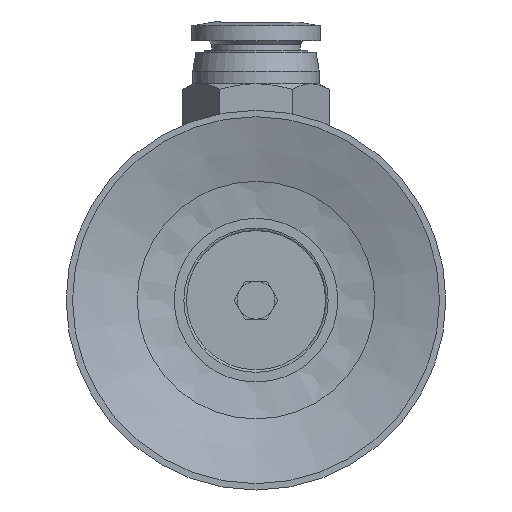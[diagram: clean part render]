
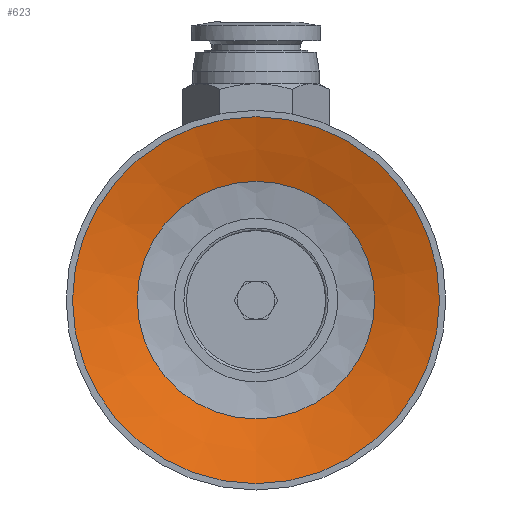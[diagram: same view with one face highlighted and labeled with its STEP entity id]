
A CAD part, front view. The second image highlights one B-rep face of the part: STEP entity #623.
In plain terms, the highlighted conical face has half-angle 73 degrees and reference radius 7.958 mm.
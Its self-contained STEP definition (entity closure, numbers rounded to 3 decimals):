
#623=ADVANCED_FACE('',(#949,#950),#951,.F.);
#949=FACE_BOUND('',#1372,.T.);
#950=FACE_OUTER_BOUND('',#1373,.T.);
#951=CONICAL_SURFACE('',#1374,7.958,1.274);
#1372=EDGE_LOOP('',(#2529));
#1373=EDGE_LOOP('',(#2530));
#1374=AXIS2_PLACEMENT_3D('',#2531,#2532,#2533);
#2529=ORIENTED_EDGE('',*,*,#3105,.T.);
#2530=ORIENTED_EDGE('',*,*,#3106,.T.);
#2531=CARTESIAN_POINT('',(0.0,9.363,0.0));
#2532=DIRECTION('',(-0.0,-1.0,0.));
#2533=DIRECTION('',(0.0,0.,-1.0));
#3105=EDGE_CURVE('',#3554,#3554,#3555,.T.);
#3106=EDGE_CURVE('',#3556,#3556,#3557,.T.);
#3554=VERTEX_POINT('',#4547);
#3555=CIRCLE('',#4548,9.388);
#3556=VERTEX_POINT('',#4549);
#3557=CIRCLE('',#4550,14.5);
#4547=CARTESIAN_POINT('',(0.0,8.926,-9.388));
#4548=AXIS2_PLACEMENT_3D('',#5350,#5351,#5352);
#4549=CARTESIAN_POINT('',(0.0,7.363,-14.5));
#4550=AXIS2_PLACEMENT_3D('',#5353,#5354,#5355);
#5350=CARTESIAN_POINT('',(0.0,8.926,0.0));
#5351=DIRECTION('',(0.0,1.0,0.));
#5352=DIRECTION('',(0.0,0.,-1.0));
#5353=CARTESIAN_POINT('',(0.0,7.363,0.0));
#5354=DIRECTION('',(0.0,-1.0,0.));
#5355=DIRECTION('',(0.0,0.,-1.0));
